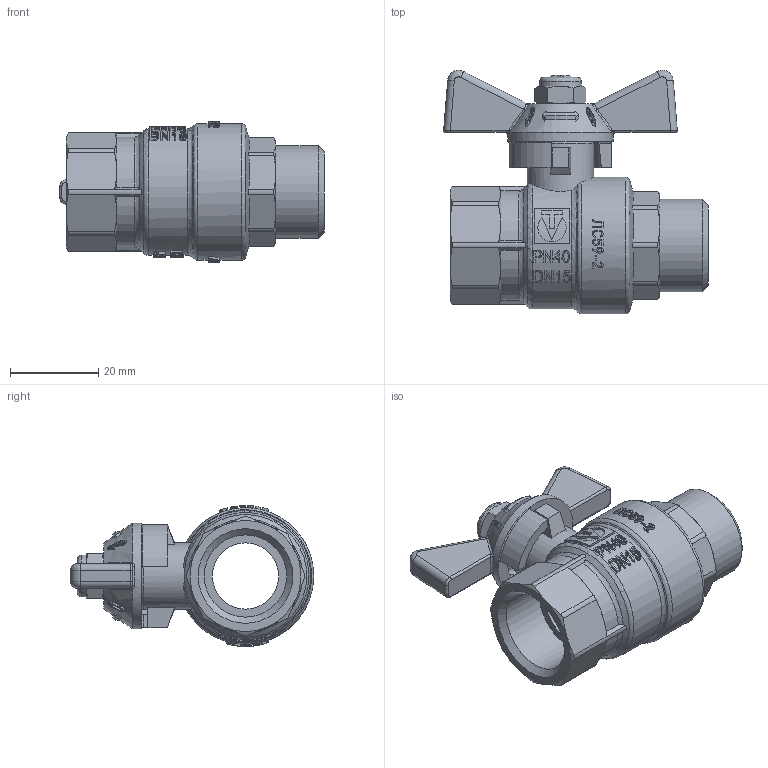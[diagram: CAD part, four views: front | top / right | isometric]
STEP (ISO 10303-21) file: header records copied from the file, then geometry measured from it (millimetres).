
FILE_DESCRIPTION(('STEP AP203'), '1');
FILE_NAME('VT.218S.N.04', '', ('UNSPECIFIED'), ('UNSPECIFIED'), 'C3D Converter', 'C3D Toolkit', '');
FILE_SCHEMA(('CONFIG_CONTROL_DESIGN'));
Length unit declared in the file: millimetre
Products named in the file (1): ВР.491816.012.000 СБ
Bounding box: 59.96 x 55.13 x 31.9 mm (x, y, z)
Volume: 27589.9 mm3; surface area: 12728.6 mm2
Topology: 1 solids, 1 shells, 1670 faces, 4736 edges, 3121 vertices
Faces by surface type: plane 1342, cylinder 110, extrusion 108, cone 63, bspline 28, torus 19
Full cylindrical faces by diameter (mm): 6 x1, 8 x1, 9.5 x1, 10.5 x1, 12 x1, 15 x2, 18.632 x1, 20.955 x1, 24 x1, 30.9 x1
Entity records: 61932 total; most frequent: CARTESIAN_POINT 25527, ORIENTED_EDGE 9406, DIRECTION 5708, EDGE_CURVE 4703, VERTEX_POINT 3120, AXIS2_PLACEMENT_3D 1927, VECTOR 1854, EDGE_LOOP 1761
